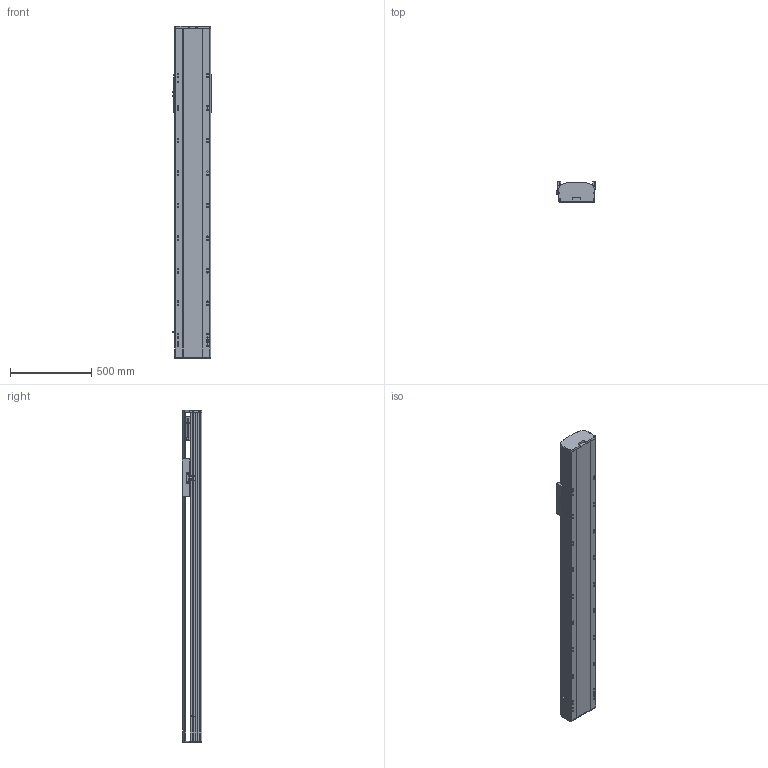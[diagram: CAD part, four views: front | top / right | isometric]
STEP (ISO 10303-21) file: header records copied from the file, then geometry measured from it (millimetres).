
FILE_DESCRIPTION (( 'STEP AP214' ), '1' );
FILE_NAME ('RTH22-XX-1450-B-M75-C4.STEP', '2025-10-24T10:35:59', ( 'Microsoft' ), ( 'Microsoft' ), 'SwSTEP 2.0', 'SolidWorks 2018', '' );
FILE_SCHEMA (( 'AUTOMOTIVE_DESIGN' ));
Length unit declared in the file: millimetre
Products named in the file (9): RTH22-XX-1450-B-M75-C4; N_RTH22-E-004-SFS25賑釱^RTH22-XX-XX-B-M75-C4; N_RTH22-GY-001耜裔^RTH22-XX-XX-B-M75-C4; N_RTH22-B-008萇儂啣^RTH22-XX-XX-B-M75-C4; N_RTH22-GY-013外置感应片^RTH22-XX-XX-B-M75-C4; N_OMRON EE-SX672 传感器^RTH22-XX-XX-B-M75-C4; N_RTH22-B-011菁釱^RTH22-XX-XX-B-M75-C4; N_750W萇儂^RTH22-XX-XX-B-M75-C4; N_RTH22-B-007奻裔^RTH22-XX-XX-B-M75-C4
Assembly tree (10 placements, depth 2):
  RTH22-XX-1450-B-M75-C4
    N_RTH22-B-011菁釱^RTH22-XX-XX-B-M75-C4
    N_RTH22-GY-001耜裔^RTH22-XX-XX-B-M75-C4
    N_750W萇儂^RTH22-XX-XX-B-M75-C4
    N_RTH22-B-008萇儂啣^RTH22-XX-XX-B-M75-C4
    N_RTH22-B-007奻裔^RTH22-XX-XX-B-M75-C4
    N_OMRON EE-SX672 传感器^RTH22-XX-XX-B-M75-C4  x3
    N_RTH22-GY-013外置感应片^RTH22-XX-XX-B-M75-C4
    N_RTH22-E-004-SFS25賑釱^RTH22-XX-XX-B-M75-C4
Bounding box: 238.5 x 122 x 2040 mm (x, y, z)
Volume: 26734571.3 mm3; surface area: 2735432.7 mm2
Topology: 10 solids, 10 shells, 1587 faces, 4350 edges, 2803 vertices
Faces by surface type: plane 760, cylinder 478, bspline 279, cone 70
Entity records: 40065 total; most frequent: CARTESIAN_POINT 12289, ORIENTED_EDGE 5652, DIRECTION 5364, EDGE_CURVE 2826, VERTEX_POINT 1839, AXIS2_PLACEMENT_3D 1830, VECTOR 1704, LINE 1704
